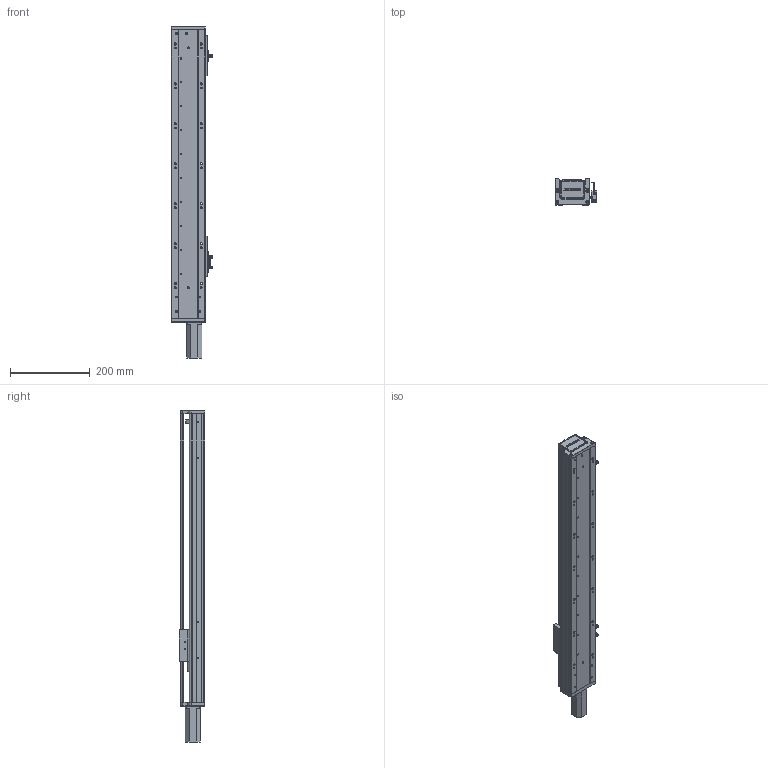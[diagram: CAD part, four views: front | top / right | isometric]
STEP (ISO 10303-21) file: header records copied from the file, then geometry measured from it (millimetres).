
FILE_DESCRIPTION (( 'STEP AP203' ), '1' );
FILE_NAME ('RY80-L1620-300-MK(100W).SLDASM_500.step', '2021-02-20T02:19:43', ( '' ), ( '' ), 'SwSTEP 2.0', 'SolidWorks 2012', '' );
FILE_SCHEMA (( 'CONFIG_CONTROL_DESIGN' ));
Products named in the file (12): 侂狟100W; RY80-L1620-300-MK(100W).SLDASM_500; 覜茼ん672; RY80俋离覜茼え; 滅袉蝶18-24; 滅袉蝶18-10; RY80綴裔啣; 672嫖萇羲壽假蚾釱; RY80前盖板(100W电机)M3; RY80-300-MK倰第菁釱_500; RY80臏賑輸; RY80-300-MK倰第奻裔啣_500
Assembly tree (14 placements, depth 2):
  RY80-L1620-300-MK(100W).SLDASM_500
    RY80-300-MK倰第菁釱_500
    RY80臏賑輸
    RY80-300-MK倰第奻裔啣_500
    RY80前盖板(100W电机)M3
    RY80綴裔啣
    滅袉蝶18-10
    672嫖萇羲壽假蚾釱  x2
    覜茼ん672  x3
    RY80俋离覜茼え
    滅袉蝶18-24
    侂狟100W
Bounding box: 103.7 x 65 x 831 mm (x, y, z)
Volume: 1256989.6 mm3; surface area: 521767.6 mm2
Topology: 14 solids, 14 shells, 1589 faces, 4455 edges, 2909 vertices
Faces by surface type: plane 908, cylinder 574, cone 73, bspline 34
Entity records: 49902 total; most frequent: CARTESIAN_POINT 13289, ORIENTED_EDGE 7678, DIRECTION 6838, EDGE_CURVE 3839, VERTEX_POINT 2525, VECTOR 2362, LINE 2362, AXIS2_PLACEMENT_3D 2238
